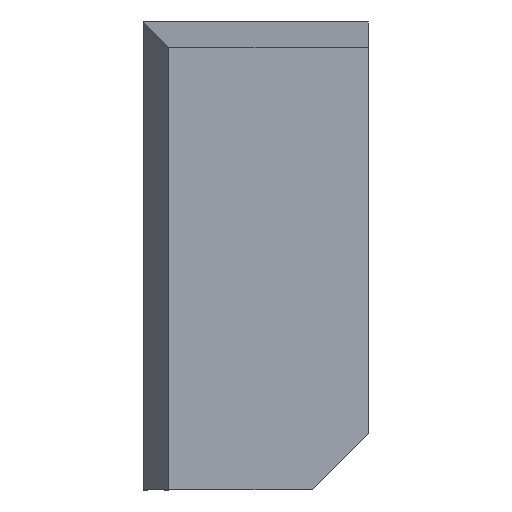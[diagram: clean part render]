
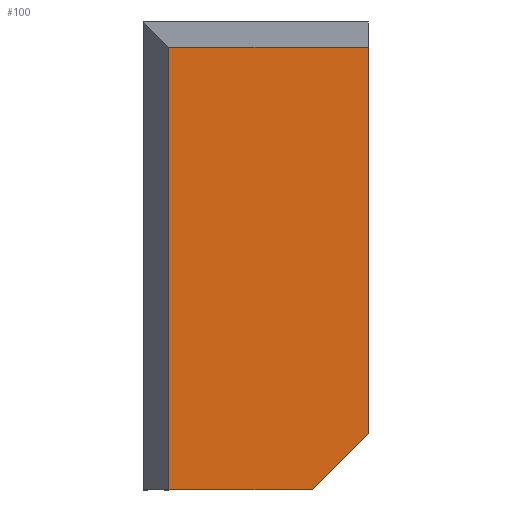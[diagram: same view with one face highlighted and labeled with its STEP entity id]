
A CAD part, left-side view. The second image highlights one B-rep face of the part: STEP entity #100.
In plain terms, the highlighted face is a extrusion surface.
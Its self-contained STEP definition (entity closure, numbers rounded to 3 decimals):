
#54=CARTESIAN_POINT('Control Point',(0.,0.,0.)) ;
#55=CARTESIAN_POINT('Control Point',(0.,0.,23.66)) ;
#59=CARTESIAN_POINT('Line Origine',(0.,5.33,23.66)) ;
#63=CARTESIAN_POINT('Vertex',(0.,0.,23.66)) ;
#65=CARTESIAN_POINT('Vertex',(0.,10.66,23.66)) ;
#68=CARTESIAN_POINT('Line Origine',(0.,10.66,11.83)) ;
#72=CARTESIAN_POINT('Vertex',(0.,10.66,0.)) ;
#75=CARTESIAN_POINT('Line Origine',(0.,5.33,0.)) ;
#79=CARTESIAN_POINT('Vertex',(0.,3.,0.)) ;
#83=CARTESIAN_POINT('Control Point',(0.,3.,0.)) ;
#84=CARTESIAN_POINT('Control Point',(0.,0.,3.)) ;
#85=CARTESIAN_POINT('Vertex',(0.,0.,3.)) ;
#88=CARTESIAN_POINT('Line Origine',(0.,0.,11.83)) ;
#56=DIRECTION('Vector Direction',(0.,1.,0.)) ;
#60=DIRECTION('Vector Direction',(0.,1.,0.)) ;
#69=DIRECTION('Vector Direction',(0.,0.,1.)) ;
#76=DIRECTION('Vector Direction',(0.,1.,0.)) ;
#89=DIRECTION('Vector Direction',(0.,0.,1.)) ;
#94=ORIENTED_EDGE('',*,*,#67,.T.) ;
#95=ORIENTED_EDGE('',*,*,#74,.T.) ;
#96=ORIENTED_EDGE('',*,*,#81,.T.) ;
#97=ORIENTED_EDGE('',*,*,#87,.T.) ;
#98=ORIENTED_EDGE('',*,*,#92,.T.) ;
#57=VECTOR('Extrusion Surface Vector',#56,1.) ;
#61=VECTOR('Line Direction',#60,1.) ;
#70=VECTOR('Line Direction',#69,1.) ;
#77=VECTOR('Line Direction',#76,1.) ;
#90=VECTOR('Line Direction',#89,1.) ;
#100=ADVANCED_FACE('Superficie.1',(#99),#58,.T.) ;
#53=B_SPLINE_CURVE_WITH_KNOTS('',1,(#54,#55),.UNSPECIFIED.,.F.,.U.,(2,2),(-11.83,11.83),.UNSPECIFIED.) ;
#82=B_SPLINE_CURVE_WITH_KNOTS('',1,(#83,#84),.UNSPECIFIED.,.F.,.U.,(2,2),(-2.121,2.121),.UNSPECIFIED.) ;
#67=EDGE_CURVE('',#64,#66,#62,.T.) ;
#74=EDGE_CURVE('',#66,#73,#71,.F.) ;
#81=EDGE_CURVE('',#73,#80,#78,.F.) ;
#87=EDGE_CURVE('',#80,#86,#82,.T.) ;
#92=EDGE_CURVE('',#86,#64,#91,.T.) ;
#93=EDGE_LOOP('',(#94,#95,#96,#97,#98)) ;
#99=FACE_OUTER_BOUND('',#93,.T.) ;
#62=LINE('Line',#59,#61) ;
#71=LINE('Line',#68,#70) ;
#78=LINE('Line',#75,#77) ;
#91=LINE('Line',#88,#90) ;
#58=SURFACE_OF_LINEAR_EXTRUSION('generated tabulated cylinder',#53,#57) ;
#64=VERTEX_POINT('',#63) ;
#66=VERTEX_POINT('',#65) ;
#73=VERTEX_POINT('',#72) ;
#80=VERTEX_POINT('',#79) ;
#86=VERTEX_POINT('',#85) ;
